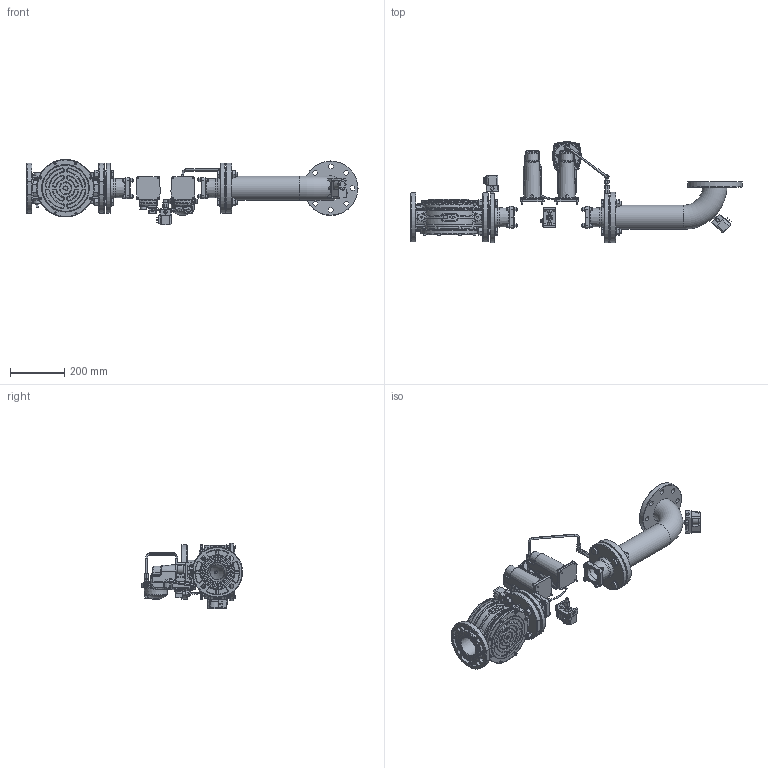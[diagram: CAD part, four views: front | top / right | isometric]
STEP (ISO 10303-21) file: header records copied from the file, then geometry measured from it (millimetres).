
FILE_DESCRIPTION (( 'STEP AP214' ), '1' );
FILE_NAME ('19990665.STEP', '2023-10-27T08:38:09', ( '' ), ( '' ), 'SwSTEP 2.0', 'SolidWorks 2021', '' );
FILE_SCHEMA (( 'AUTOMOTIVE_DESIGN' ));
Length unit declared in the file: millimetre
Products named in the file (1): 19990665
Bounding box: 1219.5 x 371.3 x 238.8 mm (x, y, z)
Volume: 5327917.3 mm3; surface area: 1511754.9 mm2
Topology: 109 solids, 110 shells, 7205 faces, 17719 edges, 10684 vertices
Faces by surface type: plane 2408, bspline 2172, cylinder 1576, cone 487, torus 478, sphere 84
Full cylindrical faces by diameter (mm): 1.5 x2, 2 x5, 3 x1, 3.1 x1, 3.4 x1, 4 x7, 4.3 x4, 4.8 x3, 5 x25, 5.5 x4, 5.9 x1, 6 x9, 6.2 x3, 6.5 x10, 6.8 x8, 7 x2, 8 x35, 8.4 x8, 8.5 x13, 8.566 x2, 8.6 x1, 8.8 x1, 9 x14, 9.5 x1, 9.728 x2, 9.73 x2, 10 x11, 11.5 x1, 11.55 x1, 11.8 x1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
Entity records: 673665 total; most frequent: CARTESIAN_POINT 320671, ORIENTED_EDGE 52024, DIRECTION 37197, EDGE_CURVE 26012, VERTEX_POINT 15966, AXIS2_PLACEMENT_3D 14387, EDGE_LOOP 13162, FACE_OUTER_BOUND 12257
